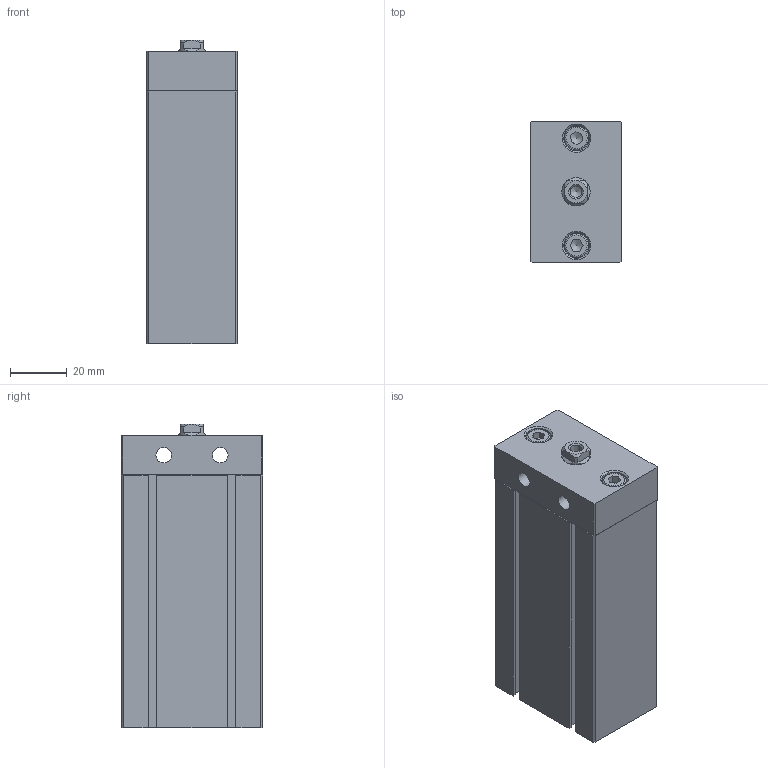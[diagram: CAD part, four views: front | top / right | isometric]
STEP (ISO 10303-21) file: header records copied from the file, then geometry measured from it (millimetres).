
FILE_DESCRIPTION((''),'2;1');
FILE_NAME('I:\3D電子目錄\氣缸\ND\ND\ND25\ND25x60.stp','2007-07-24T19:09:52',('Administrator'),(''),'Autodesk Inventor 11','Autodesk Inventor 11','');
FILE_SCHEMA(('AUTOMOTIVE_DESIGN { 1 0 10303 214 1 1 1 1 }'));
Length unit declared in the file: millimetre
Products named in the file (4): ND25; ISO 4762 M5 x 12; R 形環 28
Assembly tree (4 placements, depth 2):
  ND25
    ND25
    ISO 4762 M5 x 12  x2
    R 形環 28
Bounding box: 32 x 50.1 x 107.5 mm (x, y, z)
Volume: 153293.6 mm3; surface area: 29778.3 mm2
Topology: 5 solids, 5 shells, 167 faces, 389 edges, 247 vertices
Faces by surface type: plane 105, cylinder 25, cone 18, bspline 16, torus 3
Full cylindrical faces by diameter (mm): 1.5 x2, 1.9 x2, 5 x2, 5.5 x2, 8.5 x2, 9 x2, 17 x1, 28 x1, 29.4 x1
Entity records: 4347 total; most frequent: CARTESIAN_POINT 939, DIRECTION 678, ORIENTED_EDGE 626, EDGE_CURVE 313, AXIS2_PLACEMENT_3D 234, VERTEX_POINT 221, EDGE_LOOP 214, VECTOR 210
